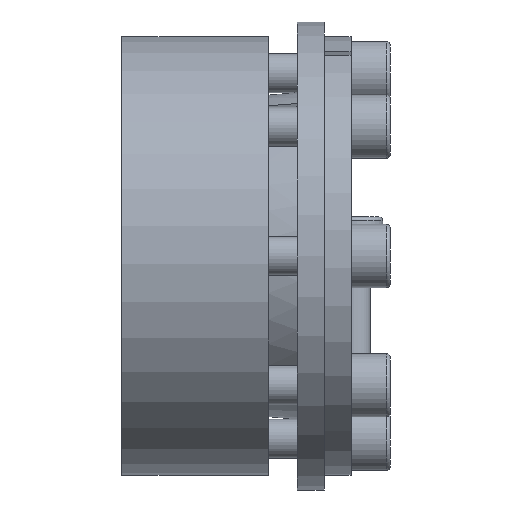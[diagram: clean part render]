
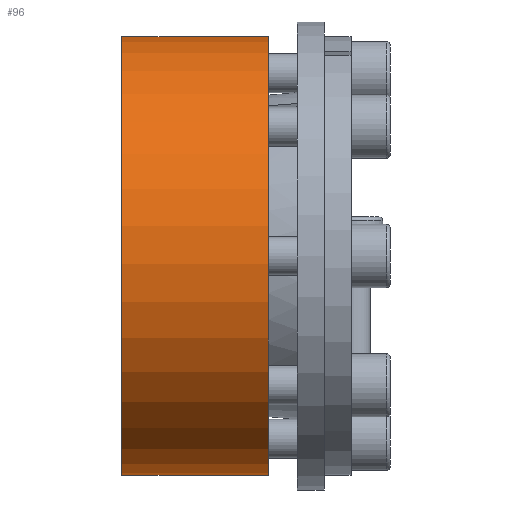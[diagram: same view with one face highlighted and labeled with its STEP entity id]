
A CAD part, left-side view. The second image highlights one B-rep face of the part: STEP entity #96.
In plain terms, the highlighted cylindrical face has radius 45 mm (diameter 90 mm), a partial arc.
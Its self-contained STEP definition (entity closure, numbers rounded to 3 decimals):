
#96 = ADVANCED_FACE( '', ( #220 ), #221, .T. );
#220 = FACE_OUTER_BOUND( '', #416, .T. );
#221 = CYLINDRICAL_SURFACE( '', #417, 45. );
#416 = EDGE_LOOP( '', ( #671, #672, #673, #674 ) );
#417 = AXIS2_PLACEMENT_3D( '', #675, #676, #677 );
#671 = ORIENTED_EDGE( '', *, *, #1071, .F. );
#672 = ORIENTED_EDGE( '', *, *, #1072, .T. );
#673 = ORIENTED_EDGE( '', *, *, #1073, .T. );
#674 = ORIENTED_EDGE( '', *, *, #1074, .F. );
#675 = CARTESIAN_POINT( '', ( 0., -60., 0. ) );
#676 = DIRECTION( '', ( 0., 1., 0. ) );
#677 = DIRECTION( '', ( 0., 0., -1. ) );
#1071 = EDGE_CURVE( '', #1298, #1299, #1300, .T. );
#1072 = EDGE_CURVE( '', #1298, #1301, #1302, .F. );
#1073 = EDGE_CURVE( '', #1301, #1303, #1304, .T. );
#1074 = EDGE_CURVE( '', #1299, #1303, #1305, .F. );
#1298 = VERTEX_POINT( '', #1662 );
#1299 = VERTEX_POINT( '', #1663 );
#1300 = CIRCLE( '', #1664, 45. );
#1301 = VERTEX_POINT( '', #1665 );
#1302 = LINE( '', #1666, #1667 );
#1303 = VERTEX_POINT( '', #1668 );
#1304 = CIRCLE( '', #1669, 45. );
#1305 = LINE( '', #1670, #1671 );
#1662 = CARTESIAN_POINT( '', ( 18.049, 17., -41.222 ) );
#1663 = CARTESIAN_POINT( '', ( 16.386, 17., -41.911 ) );
#1664 = AXIS2_PLACEMENT_3D( '', #1979, #1980, #1981 );
#1665 = CARTESIAN_POINT( '', ( 18.049, 47., -41.222 ) );
#1666 = CARTESIAN_POINT( '', ( 18.049, -60., -41.222 ) );
#1667 = VECTOR( '', #1982, 1000. );
#1668 = CARTESIAN_POINT( '', ( 16.386, 47., -41.911 ) );
#1669 = AXIS2_PLACEMENT_3D( '', #1983, #1984, #1985 );
#1670 = CARTESIAN_POINT( '', ( 16.386, -60., -41.911 ) );
#1671 = VECTOR( '', #1986, 1000. );
#1979 = CARTESIAN_POINT( '', ( 0., 17., 0. ) );
#1980 = DIRECTION( '', ( 0., -1., 0. ) );
#1981 = DIRECTION( '', ( 0., 0., -1. ) );
#1982 = DIRECTION( '', ( 0., -1., 0. ) );
#1983 = CARTESIAN_POINT( '', ( 0., 47., 0. ) );
#1984 = DIRECTION( '', ( 0., -1., 0. ) );
#1985 = DIRECTION( '', ( 0., 0., -1. ) );
#1986 = DIRECTION( '', ( 0., -1., 0. ) );
